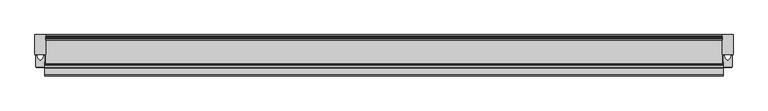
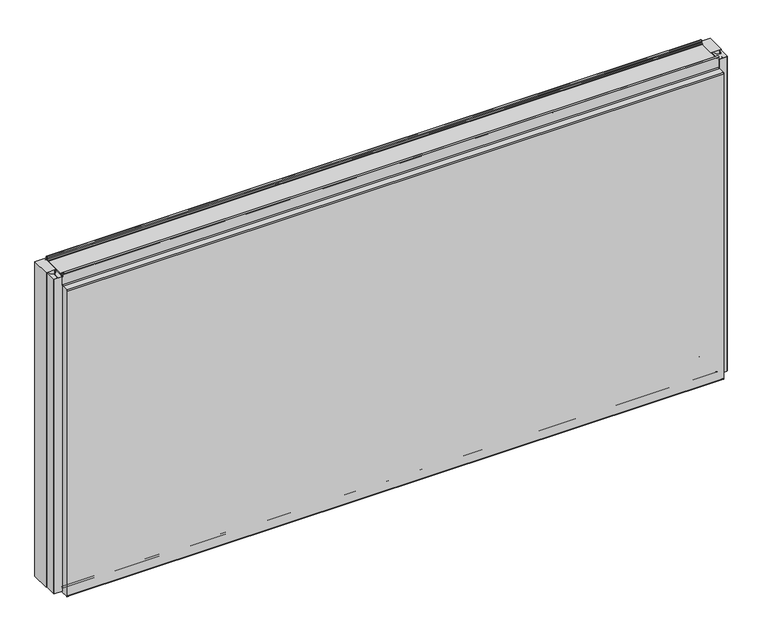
"""IFC4 building model written with IfcOpenShell, lengths in millimetres: plate geometry, Fronttop : Fronttop 120/1000."""

from ifc_helpers import new_model, si_unit, point, frame, frame_2d, origin, origin_with_axes, place, context, project, spatial, polyline, circle_curve, trimmed, segment, composite_curve, outline, extrude, source, transform, mapped, element, save
from ifc_brep_helpers import plane_surface, cylinder_surface, revolved_surface, advanced_brep


def plate_6d30afa2(model_context):
    return source(origin(), model_context, "Body", "SolidModel", [
        advanced_brep(
        [(-986.5, -94.0, 1008.0), (-986.5, -94.0, 1000.0), (-986.5, -95.0, 1000.0), (-986.5, -95.0, 1008.0), (-986.5, -90.0, 1008.0), (-986.5, -90.0, 1004.0), (-986.5, -87.0, 1001.0), (-986.5, -85.0, 1001.0), (-986.5, -85.0, 1000.0), (-986.5, -87.0, 1000.0), (-986.5, -91.0, 1004.0), (-986.5, -91.0, 1008.0), (986.5, -95.0, 1008.0), (986.5, -95.0, 1000.0), (986.5, -94.0, 1000.0), (986.5, -94.0, 1008.0), (986.5, -91.0, 1008.0), (986.5, -91.0, 1004.0), (986.5, -87.0, 1000.0), (986.5, -85.0, 1000.0), (986.5, -85.0, 1001.0), (986.5, -87.0, 1001.0), (986.5, -90.0, 1004.0), (986.5, -90.0, 1008.0), (-986.5, -87.0, 2.0), (-986.5, -85.0, 2.0), (986.5, -85.0, 2.0), (986.5, -87.0, 2.0), (986.5, -89.0, 4.0), (-986.5, -89.0, 4.0), (986.5, -89.0, 8.0), (-986.5, -89.0, 8.0), (986.5, -96.0, 8.0), (-986.5, -96.0, 8.0), (986.5, -96.0, 0.0), (-986.5, -96.0, 0.0), (986.5, -99.0, -3.0), (-986.5, -99.0, -3.0), (986.5, -95.0, -3.0), (987.5, -95.0, -3.0), (987.5, -117.0, -3.0), (986.5, -117.0, -3.0), (-986.5, -117.0, -3.0), (-987.5, -117.0, -3.0), (-987.5, -95.0, -3.0), (-986.5, -95.0, -3.0), (986.5, -120.0, 0.0), (-986.5, -120.0, 0.0), (987.5, -120.0, 0.0), (987.5, -120.0, 969.0), (986.5, -120.0, 969.0), (-986.5, -120.0, 969.0), (-987.5, -120.0, 969.0), (-987.5, -120.0, 0.0), (986.5, -117.0, 972.0), (-986.5, -117.0, 972.0), (987.5, -117.0, 972.0), (987.5, -98.0, 972.0), (986.5, -98.0, 972.0), (-986.5, -98.0, 972.0), (-987.5, -98.0, 972.0), (-987.5, -117.0, 972.0), (986.5, -95.0, 975.0), (-986.5, -95.0, 975.0), (987.5, -95.0, 975.0), (987.5, -95.0, 1000.0), (-987.5, -95.0, 1000.0), (-987.5, -95.0, 975.0), (986.5, -94.0, 975.0), (-986.5, -94.0, 975.0), (986.5, -98.0, 971.0), (-986.5, -98.0, 971.0), (986.5, -117.0, 971.0), (-986.5, -117.0, 971.0), (986.5, -119.0, 969.0), (-986.5, -119.0, 969.0), (986.5, -119.0, 0.0), (-986.5, -119.0, 0.0), (986.5, -117.0, -2.0), (-986.5, -117.0, -2.0), (986.5, -99.0, -2.0), (-986.5, -99.0, -2.0), (986.5, -97.0, 0.0), (-986.5, -97.0, 0.0), (986.5, -97.0, 8.0), (-986.5, -97.0, 8.0), (986.5, -88.0, 8.0), (-986.5, -88.0, 8.0), (986.5, -88.0, 4.0), (-986.5, -88.0, 4.0), (986.5, -87.0, 3.0), (-986.5, -87.0, 3.0), (986.5, -85.0, 3.0), (-986.5, -85.0, 3.0), (987.5, -95.0, 0.0), (987.5, -80.0, 0.0), (987.5, -80.0, 1000.0), (986.5, -80.0, 1000.0), (986.5, -80.0, 0.0), (986.5, -95.0, 0.0), (-987.5, -80.0, 1000.0), (-987.5, -80.0, 0.0), (-987.5, -95.0, 0.0), (-986.5, -80.0, 1000.0), (-986.5, -95.0, 0.0), (-986.5, -80.0, 0.0)],
        [
            (0, 1),
            (1, 2),
            (2, 3),
            (3, 4, circle_curve(frame((-986.5, -92.5, 1008.0), z_axis=(-1.0, 0.0, 0.0), x_axis=(0.0, 1.0, 0.0)), 2.5)),
            (4, 5),
            (5, 6, circle_curve(frame((-986.5, -87.0, 1004.0), z_axis=(1.0, 0.0, 0.0), x_axis=(0.0, 1.0, 0.0)), 3.0)),
            (6, 7),
            (7, 8),
            (8, 9),
            (9, 10, circle_curve(frame((-986.5, -87.0, 1004.0), z_axis=(-1.0, 0.0, 0.0), x_axis=(0.0, 1.0, 0.0)), 4.0)),
            (10, 11),
            (11, 0, circle_curve(frame((-986.5, -92.5, 1008.0), z_axis=(1.0, 0.0, 0.0), x_axis=(0.0, 1.0, 0.0)), 1.5)),
            (12, 13),
            (13, 14),
            (14, 15),
            (15, 16, circle_curve(frame((986.5, -92.5, 1008.0), z_axis=(-1.0, 0.0, 0.0), x_axis=(0.0, 1.0, 0.0)), 1.5)),
            (16, 17),
            (17, 18, circle_curve(frame((986.5, -87.0, 1004.0), z_axis=(1.0, 0.0, 0.0), x_axis=(0.0, 1.0, 0.0)), 4.0)),
            (18, 19),
            (19, 20),
            (20, 21),
            (21, 22, circle_curve(frame((986.5, -87.0, 1004.0), z_axis=(-1.0, 0.0, 0.0), x_axis=(0.0, 1.0, 0.0)), 3.0)),
            (22, 23),
            (23, 12, circle_curve(frame((986.5, -92.5, 1008.0), z_axis=(1.0, 0.0, 0.0), x_axis=(0.0, 1.0, 0.0)), 2.5)),
            (24, 25),
            (25, 26),
            (26, 27),
            (27, 24),
            (27, 28, circle_curve(frame((986.5, -87.0, 4.0), z_axis=(-1.0, 0.0, 0.0), x_axis=(0.0, 1.0, 0.0)), 2.0)),
            (28, 29),
            (29, 24, circle_curve(frame((-986.5, -87.0, 4.0), z_axis=(1.0, 0.0, 0.0), x_axis=(0.0, 1.0, 0.0)), 2.0)),
            (28, 30),
            (30, 31),
            (31, 29),
            (30, 32, circle_curve(frame((986.5, -92.5, 8.0), z_axis=(1.0, 0.0, 0.0), x_axis=(0.0, 1.0, 0.0)), 3.5)),
            (32, 33),
            (33, 31, circle_curve(frame((-986.5, -92.5, 8.0), z_axis=(-1.0, 0.0, 0.0), x_axis=(0.0, 1.0, 0.0)), 3.5)),
            (32, 34),
            (34, 35),
            (35, 33),
            (34, 36, circle_curve(frame((986.5, -99.0, 0.0), z_axis=(-1.0, 0.0, 0.0), x_axis=(0.0, 1.0, 0.0)), 3.0)),
            (36, 37),
            (37, 35, circle_curve(frame((-986.5, -99.0, 0.0), z_axis=(1.0, 0.0, 0.0), x_axis=(0.0, 1.0, 0.0)), 3.0)),
            (36, 38),
            (38, 39),
            (39, 40),
            (40, 41),
            (41, 42),
            (42, 43),
            (43, 44),
            (44, 45),
            (45, 37),
            (41, 46, circle_curve(frame((986.5, -117.0, 0.0), z_axis=(-1.0, 0.0, 0.0), x_axis=(0.0, 1.0, 0.0)), 3.0)),
            (46, 47),
            (47, 42, circle_curve(frame((-986.5, -117.0, 0.0), z_axis=(1.0, 0.0, 0.0), x_axis=(0.0, 1.0, 0.0)), 3.0)),
            (46, 48),
            (48, 49),
            (49, 50),
            (50, 51),
            (51, 52),
            (52, 53),
            (53, 47),
            (50, 54, circle_curve(frame((986.5, -117.0, 969.0), z_axis=(-1.0, 0.0, 0.0), x_axis=(0.0, 1.0, 0.0)), 3.0)),
            (54, 55),
            (55, 51, circle_curve(frame((-986.5, -117.0, 969.0), z_axis=(1.0, 0.0, 0.0), x_axis=(0.0, 1.0, 0.0)), 3.0)),
            (54, 56),
            (56, 57),
            (57, 58),
            (58, 59),
            (59, 60),
            (60, 61),
            (61, 55),
            (58, 62, circle_curve(frame((986.5, -98.0, 975.0), z_axis=(1.0, 0.0, 0.0), x_axis=(0.0, 1.0, 0.0)), 3.0)),
            (62, 63),
            (63, 59, circle_curve(frame((-986.5, -98.0, 975.0), z_axis=(-1.0, 0.0, 0.0), x_axis=(0.0, 1.0, 0.0)), 3.0)),
            (62, 64),
            (64, 65),
            (65, 13),
            (12, 3),
            (2, 66),
            (66, 67),
            (67, 63),
            (23, 4),
            (22, 5),
            (21, 6),
            (20, 7),
            (19, 8),
            (19, 18),
            (18, 9),
            (9, 8),
            (17, 10),
            (16, 11),
            (15, 0),
            (14, 68),
            (68, 69),
            (69, 1),
            (68, 70, circle_curve(frame((986.5, -98.0, 975.0), z_axis=(-1.0, 0.0, 0.0), x_axis=(0.0, 1.0, 0.0)), 4.0)),
            (70, 71),
            (71, 69, circle_curve(frame((-986.5, -98.0, 975.0), z_axis=(1.0, 0.0, 0.0), x_axis=(0.0, 1.0, 0.0)), 4.0)),
            (70, 72),
            (72, 73),
            (73, 71),
            (72, 74, circle_curve(frame((986.5, -117.0, 969.0), z_axis=(1.0, 0.0, 0.0), x_axis=(0.0, 1.0, 0.0)), 2.0)),
            (74, 75),
            (75, 73, circle_curve(frame((-986.5, -117.0, 969.0), z_axis=(-1.0, 0.0, 0.0), x_axis=(0.0, 1.0, 0.0)), 2.0)),
            (74, 76),
            (76, 77),
            (77, 75),
            (76, 78, circle_curve(frame((986.5, -117.0, 0.0), z_axis=(1.0, 0.0, 0.0), x_axis=(0.0, 1.0, 0.0)), 2.0)),
            (78, 79),
            (79, 77, circle_curve(frame((-986.5, -117.0, 0.0), z_axis=(-1.0, 0.0, 0.0), x_axis=(0.0, 1.0, 0.0)), 2.0)),
            (78, 80),
            (80, 81),
            (81, 79),
            (80, 82, circle_curve(frame((986.5, -99.0, 0.0), z_axis=(1.0, 0.0, 0.0), x_axis=(0.0, 1.0, 0.0)), 2.0)),
            (82, 83),
            (83, 81, circle_curve(frame((-986.5, -99.0, 0.0), z_axis=(-1.0, 0.0, 0.0), x_axis=(0.0, 1.0, 0.0)), 2.0)),
            (82, 84),
            (84, 85),
            (85, 83),
            (84, 86, circle_curve(frame((986.5, -92.5, 8.0), z_axis=(-1.0, 0.0, 0.0), x_axis=(0.0, 1.0, 0.0)), 4.5)),
            (86, 87),
            (87, 85, circle_curve(frame((-986.5, -92.5, 8.0), z_axis=(1.0, 0.0, 0.0), x_axis=(0.0, 1.0, 0.0)), 4.5)),
            (86, 88),
            (88, 89),
            (89, 87),
            (88, 90, circle_curve(frame((986.5, -87.0, 4.0), z_axis=(1.0, 0.0, 0.0), x_axis=(0.0, 1.0, 0.0)), 1.0)),
            (90, 91),
            (91, 89, circle_curve(frame((-986.5, -87.0, 4.0), z_axis=(-1.0, 0.0, 0.0), x_axis=(0.0, 1.0, 0.0)), 1.0)),
            (90, 92),
            (92, 93),
            (93, 91),
            (25, 93),
            (92, 26),
            (64, 57, circle_curve(frame((987.5, -98.0, 975.0), z_axis=(-1.0, 0.0, 0.0), x_axis=(0.0, -1.0, 0.0)), 3.0)),
            (56, 49, circle_curve(frame((987.5, -117.0, 969.0), z_axis=(1.0, 0.0, 0.0), x_axis=(0.0, -1.0, 0.0)), 3.0)),
            (48, 40, circle_curve(frame((987.5, -117.0, 0.0), z_axis=(1.0, 0.0, 0.0), x_axis=(0.0, -1.0, 0.0)), 3.0)),
            (39, 94),
            (94, 95),
            (95, 96),
            (96, 65),
            (14, 18),
            (19, 97),
            (97, 98),
            (98, 99),
            (99, 38),
            (96, 97),
            (95, 98),
            (94, 99),
            (66, 100),
            (100, 101),
            (101, 102),
            (102, 44),
            (43, 53, circle_curve(frame((-987.5, -117.0, 0.0), z_axis=(-1.0, 0.0, 0.0), x_axis=(0.0, -1.0, 0.0)), 3.0)),
            (52, 61, circle_curve(frame((-987.5, -117.0, 969.0), z_axis=(-1.0, 0.0, 0.0), x_axis=(0.0, -1.0, 0.0)), 3.0)),
            (60, 67, circle_curve(frame((-987.5, -98.0, 975.0), z_axis=(1.0, 0.0, 0.0), x_axis=(0.0, -1.0, 0.0)), 3.0)),
            (103, 8),
            (9, 1),
            (45, 104),
            (104, 105),
            (105, 103),
            (103, 100),
            (105, 101),
            (104, 102),
        ],
        [
            plane_surface(frame((-986.5, 0.0, 0.0), z_axis=(-1.0, 0.0, 0.0), x_axis=(0.0, 0.0, 1.0))),
            plane_surface(frame((986.5, 0.0, 0.0), z_axis=(1.0, 0.0, 0.0), x_axis=(0.0, 0.0, 1.0))),
            plane_surface(frame((-986.5, -87.0, 2.0), z_axis=(0.0, 0.0, -1.0), x_axis=(1.0, 0.0, 0.0))),
            cylinder_surface(frame((-986.5, -87.0, 4.0), z_axis=(-1.0, 0.0, 0.0), x_axis=(0.0, 1.0, 0.0)), 2.0),
            plane_surface(frame((-986.5, -89.0, 8.0), z_axis=(0.0, -1.0, 0.0), x_axis=(1.0, 0.0, 0.0))),
            revolved_surface(polyline([(986.5, -89.0, 8.0), (-986.5, -89.0, 8.0)]), (-986.5, -92.5, 8.0), (1.0, 0.0, 0.0)),
            plane_surface(frame((-986.5, -96.0, 0.0), z_axis=(0.0, 1.0, 0.0), x_axis=(1.0, 0.0, 0.0))),
            cylinder_surface(frame((-986.5, -99.0, 0.0), z_axis=(-1.0, 0.0, 0.0), x_axis=(0.0, 1.0, 0.0)), 3.0),
            plane_surface(frame((-986.5, -117.0, -3.0), z_axis=(0.0, 0.0, -1.0), x_axis=(1.0, 0.0, 0.0))),
            cylinder_surface(frame((-986.5, -117.0, 0.0), z_axis=(-1.0, 0.0, 0.0), x_axis=(0.0, 1.0, 0.0)), 3.0),
            plane_surface(frame((-986.5, -120.0, 969.0), z_axis=(0.0, -1.0, 0.0), x_axis=(1.0, 0.0, 0.0))),
            cylinder_surface(frame((-986.5, -117.0, 969.0), z_axis=(-1.0, 0.0, 0.0), x_axis=(0.0, 1.0, 0.0)), 3.0),
            plane_surface(frame((-986.5, -98.0, 972.0), z_axis=(0.0, 0.0, 1.0), x_axis=(1.0, 0.0, 0.0))),
            revolved_surface(polyline([(986.5, -95.0, 975.0), (-986.5, -95.0, 975.0)]), (-986.5, -98.0, 975.0), (1.0, 0.0, 0.0)),
            plane_surface(frame((-986.5, -95.0, 1008.0), z_axis=(0.0, -1.0, 0.0), x_axis=(1.0, 0.0, 0.0))),
            cylinder_surface(frame((-986.5, -92.5, 1008.0), z_axis=(-1.0, 0.0, 0.0), x_axis=(0.0, 1.0, 0.0)), 2.5),
            plane_surface(frame((-986.5, -90.0, 1004.0), z_axis=(0.0, 1.0, 0.0), x_axis=(1.0, 0.0, 0.0))),
            revolved_surface(polyline([(986.5, -84.0, 1004.0), (-986.5, -84.0, 1004.0)]), (-986.5, -87.0, 1004.0), (1.0, 0.0, 0.0)),
            plane_surface(frame((-986.5, -85.0, 1001.0), z_axis=(0.0, 0.0, 1.0), x_axis=(1.0, 0.0, 0.0))),
            plane_surface(frame((-986.5, -85.0, 1000.0), z_axis=(0.0, 1.0, 0.0), x_axis=(1.0, 0.0, 0.0))),
            plane_surface(frame((-986.5, -87.0, 1000.0), z_axis=(0.0, 0.0, -1.0), x_axis=(1.0, 0.0, 0.0))),
            cylinder_surface(frame((-986.5, -87.0, 1004.0), z_axis=(-1.0, 0.0, 0.0), x_axis=(0.0, 1.0, 0.0)), 4.0),
            plane_surface(frame((-986.5, -91.0, 1008.0), z_axis=(0.0, -1.0, 0.0), x_axis=(1.0, 0.0, 0.0))),
            revolved_surface(polyline([(986.5, -91.0, 1008.0), (-986.5, -91.0, 1008.0)]), (-986.5, -92.5, 1008.0), (1.0, 0.0, 0.0)),
            plane_surface(frame((-986.5, -94.0, 975.0), z_axis=(0.0, 1.0, 0.0), x_axis=(1.0, 0.0, 0.0))),
            cylinder_surface(frame((-986.5, -98.0, 975.0), z_axis=(-1.0, 0.0, 0.0), x_axis=(0.0, 1.0, 0.0)), 4.0),
            plane_surface(frame((-986.5, -117.0, 971.0), z_axis=(0.0, 0.0, -1.0), x_axis=(1.0, 0.0, 0.0))),
            revolved_surface(polyline([(986.5, -115.0, 969.0), (-986.5, -115.0, 969.0)]), (-986.5, -117.0, 969.0), (1.0, 0.0, 0.0)),
            plane_surface(frame((-986.5, -119.0, 0.0), z_axis=(0.0, 1.0, 0.0), x_axis=(1.0, 0.0, 0.0))),
            revolved_surface(polyline([(986.5, -115.0, 0.0), (-986.5, -115.0, 0.0)]), (-986.5, -117.0, 0.0), (1.0, 0.0, 0.0)),
            plane_surface(frame((-986.5, -99.0, -2.0), z_axis=(0.0, 0.0, 1.0), x_axis=(1.0, 0.0, 0.0))),
            revolved_surface(polyline([(986.5, -97.0, 0.0), (-986.5, -97.0, 0.0)]), (-986.5, -99.0, 0.0), (1.0, 0.0, 0.0)),
            plane_surface(frame((-986.5, -97.0, 8.0), z_axis=(0.0, -1.0, 0.0), x_axis=(1.0, 0.0, 0.0))),
            cylinder_surface(frame((-986.5, -92.5, 8.0), z_axis=(-1.0, 0.0, 0.0), x_axis=(0.0, 1.0, 0.0)), 4.5),
            plane_surface(frame((-986.5, -88.0, 4.0), z_axis=(0.0, 1.0, 0.0), x_axis=(1.0, 0.0, 0.0))),
            revolved_surface(polyline([(986.5, -86.0, 4.0), (-986.5, -86.0, 4.0)]), (-986.5, -87.0, 4.0), (1.0, 0.0, 0.0)),
            plane_surface(frame((-986.5, -85.0, 3.0), z_axis=(0.0, 0.0, 1.0), x_axis=(1.0, 0.0, 0.0))),
            plane_surface(frame((-986.5, -85.0, 2.0), z_axis=(0.0, 1.0, 0.0), x_axis=(1.0, 0.0, 0.0))),
            plane_surface(frame((987.5, -95.0, 1000.0), z_axis=(1.0, 0.0, 0.0), x_axis=(0.0, 1.0, 0.0))),
            plane_surface(frame((986.5, -95.0, 1000.0), z_axis=(-1.0, 0.0, 0.0), x_axis=(0.0, -1.0, 0.0))),
            plane_surface(frame((987.5, -95.0, 1000.0), z_axis=(0.0, 0.0, 1.0), x_axis=(-1.0, 0.0, 0.0))),
            plane_surface(frame((987.5, -80.0, 1000.0), z_axis=(0.0, 1.0, 0.0), x_axis=(-1.0, 0.0, 0.0))),
            plane_surface(frame((987.5, -80.0, 0.0), z_axis=(0.0, 0.0, -1.0), x_axis=(-1.0, 0.0, 0.0))),
            cylinder_surface(frame((986.5, -117.0, 0.0), z_axis=(1.0, 0.0, 0.0), x_axis=(0.0, -1.0, 0.0)), 3.0),
            cylinder_surface(frame((986.5, -117.0, 969.0), z_axis=(1.0, 0.0, 0.0), x_axis=(0.0, -1.0, 0.0)), 3.0),
            revolved_surface(polyline([(986.5, -101.0, 975.0), (987.5, -101.0, 975.0)]), (986.5, -98.0, 975.0), (-1.0, 0.0, 0.0)),
            plane_surface(frame((-987.5, -95.0, 1000.0), z_axis=(-1.0, 0.0, 0.0), x_axis=(0.0, -1.0, 0.0))),
            plane_surface(frame((-986.5, -95.0, 1000.0), z_axis=(1.0, 0.0, 0.0), x_axis=(0.0, 1.0, 0.0))),
            plane_surface(frame((-986.5, -95.0, 1000.0), z_axis=(0.0, 0.0, 1.0), x_axis=(-1.0, 0.0, 0.0))),
            plane_surface(frame((-986.5, -80.0, 1000.0), z_axis=(0.0, 1.0, 0.0), x_axis=(-1.0, 0.0, 0.0))),
            plane_surface(frame((-986.5, -80.0, 0.0), z_axis=(0.0, 0.0, -1.0), x_axis=(-1.0, 0.0, 0.0))),
            cylinder_surface(frame((-987.5, -117.0, 0.0), z_axis=(1.0, 0.0, 0.0), x_axis=(0.0, -1.0, 0.0)), 3.0),
            cylinder_surface(frame((-987.5, -117.0, 969.0), z_axis=(1.0, 0.0, 0.0), x_axis=(0.0, -1.0, 0.0)), 3.0),
            revolved_surface(polyline([(-987.5, -101.0, 975.0), (-986.5, -101.0, 975.0)]), (-987.5, -98.0, 975.0), (-1.0, 0.0, 0.0)),
            plane_surface(frame((987.5, -95.0, 0.0), z_axis=(0.0, 1.0, 0.0), x_axis=(-1.0, 0.0, 0.0))),
            plane_surface(frame((-986.5, -95.0, 0.0), z_axis=(0.0, 1.0, 0.0), x_axis=(-1.0, 0.0, 0.0))),
        ],
        [
            (0, [[1, 2, 3, 4, 5, 6, 7, 8, 9, 10, 11, 12]]),
            (1, [[13, 14, 15, 16, 17, 18, 19, 20, 21, 22, 23, 24]]),
            (2, [[25, 26, 27, 28]]),
            (3, [[29, 30, 31, -28]]),
            (4, [[32, 33, 34, -30]]),
            (5, [[35, 36, 37, -33]]),
            (6, [[38, 39, 40, -36]]),
            (7, [[41, 42, 43, -39]]),
            (8, [[44, 45, 46, 47, 48, 49, 50, 51, 52, -42]]),
            (9, [[53, 54, 55, -48]]),
            (10, [[56, 57, 58, 59, 60, 61, 62, -54]]),
            (11, [[63, 64, 65, -59]]),
            (12, [[66, 67, 68, 69, 70, 71, 72, -64]]),
            (13, [[73, 74, 75, -69]]),
            (14, [[76, 77, 78, -13, 79, -3, 80, 81, 82, -74]]),
            (15, [[-79, -24, 83, -4]]),
            (16, [[-83, -23, 84, -5]]),
            (17, [[-84, -22, 85, -6]]),
            (18, [[-85, -21, 86, -7]]),
            (19, [[-86, -20, 87, -8]]),
            (20, [[88, 89, 90, -87]]),
            (21, [[-89, -18, 91, -10]]),
            (22, [[-91, -17, 92, -11]]),
            (23, [[-92, -16, 93, -12]]),
            (24, [[-15, 94, 95, 96, -1, -93]]),
            (25, [[97, 98, 99, -95]]),
            (26, [[100, 101, 102, -98]]),
            (27, [[103, 104, 105, -101]]),
            (28, [[106, 107, 108, -104]]),
            (29, [[109, 110, 111, -107]]),
            (30, [[112, 113, 114, -110]]),
            (31, [[115, 116, 117, -113]]),
            (32, [[118, 119, 120, -116]]),
            (33, [[121, 122, 123, -119]]),
            (34, [[124, 125, 126, -122]]),
            (35, [[127, 128, 129, -125]]),
            (36, [[130, 131, 132, -128]]),
            (37, [[133, -131, 134, -26]]),
            (38, [[-77, 135, -67, 136, -57, 137, -46, 138, 139, 140, 141]]),
            (39, [[-44, -41, -38, -35, -32, -29, -27, -134, -130, -127, -124, -121, -118, -115, -112, -109, -106, -103, -100, -97, -94, 142, -88, 143, 144, 145, 146]]),
            (40, [[147, -143, -19, -142, -14, -78, -141]]),
            (41, [[148, -144, -147, -140]]),
            (42, [[149, -145, -148, -139]]),
            (43, [[-56, -53, -47, -137]]),
            (44, [[-66, -63, -58, -136]]),
            (45, [[-76, -73, -68, -135]]),
            (46, [[150, 151, 152, 153, -50, 154, -61, 155, -71, 156, -81]]),
            (47, [[157, -90, 158, -96, -99, -102, -105, -108, -111, -114, -117, -120, -123, -126, -129, -132, -133, -25, -31, -34, -37, -40, -43, -52, 159, 160, 161]]),
            (48, [[-80, -2, -158, -9, -157, 162, -150]]),
            (49, [[-162, -161, 163, -151]]),
            (50, [[-163, -160, 164, -152]]),
            (51, [[-49, -55, -62, -154]]),
            (52, [[-60, -65, -72, -155]]),
            (53, [[-70, -75, -82, -156]]),
            (54, [[-45, -146, -149, -138]]),
            (55, [[-164, -159, -51, -153]]),
        ],
    ),
        extrude(outline(composite_curve([segment(polyline([(-1012.5001545, -93.5), (-1012.5001545, -60.0), (-1009.75, -60.0), (-1009.75, -62.5)]), True, "CONTINUOUS"), segment(trimmed(circle_curve(frame_2d((-991.9661979, -59.3183984)), 18.0661619), [point((-1009.75, -62.5))], [point((-1000.0, -75.5))], True, "CARTESIAN"), True, "CONTINUOUS"), segment(trimmed(circle_curve(frame_2d((-1008.0338021, -59.3183984)), 18.0661619), [point((-1000.0, -75.5))], [point((-990.25, -62.5))], True, "CARTESIAN"), True, "CONTINUOUS"), segment(polyline([(-990.25, -62.5), (-990.25, -60.0), (-987.4998455, -60.0), (-987.4998455, -93.5), (-999.25, -93.5), (-999.25, -77.5), (-1000.75, -77.5), (-1000.75, -93.5), (-1012.5001545, -93.5)]), True, "CONTINUOUS")], self_intersect=False)), origin_with_axes(), (0.0, 0.0, 1.0), 1000.0),
        extrude(outline(polyline([(-984.5, 0.0), (-984.5, -58.0), (-1015.5, -58.0), (-1015.5, 0.0), (-984.5, 0.0)])), origin_with_axes(), (0.0, 0.0, 1.0), 1000.0),
        extrude(outline(polyline([(-1011.5051154, -95.0), (-1011.5051154, -93.5), (-1000.65, -93.5), (-1000.65, -79.0759655), (-999.3497504, -79.0759655), (-999.3497504, -93.5), (-988.4948846, -93.5), (-988.4948846, -95.0), (-1011.5051154, -95.0)])), origin_with_axes(), (0.0, 0.0, 1.0), 1000.0),
        extrude(outline(composite_curve([segment(polyline([(987.4998455, -93.5), (987.4998455, -60.0), (990.25, -60.0), (990.25, -62.5)]), True, "CONTINUOUS"), segment(trimmed(circle_curve(frame_2d((1008.0338021, -59.3183984)), 18.0661619), [point((990.25, -62.5))], [point((1000.0, -75.5))], True, "CARTESIAN"), True, "CONTINUOUS"), segment(trimmed(circle_curve(frame_2d((991.9661979, -59.3183984)), 18.0661619), [point((1000.0, -75.5))], [point((1009.75, -62.5))], True, "CARTESIAN"), True, "CONTINUOUS"), segment(polyline([(1009.75, -62.5), (1009.75, -60.0), (1012.5001545, -60.0), (1012.5001545, -93.5), (1000.75, -93.5), (1000.75, -77.5), (999.25, -77.5), (999.25, -93.5), (987.4998455, -93.5)]), True, "CONTINUOUS")], self_intersect=False)), origin_with_axes(), (0.0, 0.0, 1.0), 1000.0),
        extrude(outline(polyline([(1015.5, 0.0), (1015.5, -58.0), (984.5, -58.0), (984.5, 0.0), (1015.5, 0.0)])), origin_with_axes(), (0.0, 0.0, 1.0), 1000.0),
        extrude(outline(polyline([(988.4948846, -95.0), (988.4948846, -93.5), (999.35, -93.5), (999.35, -79.0759655), (1000.6502496, -79.0759655), (1000.6502496, -93.5), (1011.5051154, -93.5), (1011.5051154, -95.0), (988.4948846, -95.0)])), origin_with_axes(), (0.0, 0.0, 1.0), 1000.0),
        advanced_brep(
        [(-984.5, -13.0, 1001.0), (-984.5, -10.0, 1004.0), (-984.5, -10.0, 1008.0), (-984.5, -5.0, 1008.0), (-984.5, -5.0, 999.5), (-984.5, -2.2239212, 997.0152907), (-984.5, 0.0, 995.0), (-984.5, 0.0, -0.5), (-984.5, -4.0, -0.5), (-984.5, -4.0, 8.0), (-984.5, -11.0, 8.0), (-984.5, -11.0, 4.0), (-984.5, -13.0, 2.0), (-984.5, -15.0, 2.0), (-984.5, -15.0, 3.0), (-984.5, -13.0, 3.0), (-984.5, -12.0, 4.0), (-984.5, -12.0, 8.0), (-984.5, -3.0, 8.0), (-984.5, -3.0, -0.5), (-984.5, -1.0, -0.5), (-984.5, -1.0, 995.0), (-984.5, -2.1104315, 995.9938837), (-984.5, -6.0, 999.5), (-984.5, -6.0, 1008.0), (-984.5, -9.0, 1008.0), (-984.5, -9.0, 1004.0), (-984.5, -13.0, 1000.0), (-984.5, -15.0, 1000.0), (-984.5, -15.0, 1001.0), (984.5, -13.0, 1001.0), (984.5, -15.0, 1001.0), (984.5, -15.0, 1000.0), (984.5, -13.0, 1000.0), (984.5, -9.0, 1004.0), (984.5, -9.0, 1008.0), (984.5, -6.0, 1008.0), (984.5, -6.0, 999.5), (984.5, -2.1134897, 996.0214069), (984.5, -1.0, 995.0), (984.5, -1.0, -0.5), (984.5, -3.0, -0.5), (984.5, -3.0, 8.0), (984.5, -12.0, 8.0), (984.5, -12.0, 4.0), (984.5, -13.0, 3.0), (984.5, -15.0, 3.0), (984.5, -15.0, 2.0), (984.5, -13.0, 2.0), (984.5, -11.0, 4.0), (984.5, -11.0, 8.0), (984.5, -4.0, 8.0), (984.5, -4.0, -0.5), (984.5, 0.0, -0.5), (984.5, 0.0, 995.0), (984.5, -2.220863, 996.9877675), (984.5, -5.0, 999.5), (984.5, -5.0, 1008.0), (984.5, -10.0, 1008.0), (984.5, -10.0, 1004.0)],
        [
            (0, 1, circle_curve(frame((-984.5, -13.0, 1004.0), z_axis=(1.0, 0.0, 0.0), x_axis=(0.0, 1.0, 0.0)), 3.0)),
            (1, 2),
            (2, 3, circle_curve(frame((-984.5, -7.5, 1008.0), z_axis=(-1.0, 0.0, 0.0), x_axis=(0.0, 1.0, 0.0)), 2.5)),
            (3, 4),
            (4, 5, circle_curve(frame((-984.5, -2.5, 999.5), z_axis=(1.0, 0.0, 0.0), x_axis=(0.0, 1.0, 0.0)), 2.5)),
            (5, 6, circle_curve(frame((-984.5, -2.0, 995.0), z_axis=(-1.0, 0.0, 0.0), x_axis=(0.0, 1.0, 0.0)), 2.0)),
            (6, 7),
            (7, 8, circle_curve(frame((-984.5, -2.0, -0.5), z_axis=(-1.0, 0.0, 0.0), x_axis=(0.0, 1.0, 0.0)), 2.0)),
            (8, 9),
            (9, 10, circle_curve(frame((-984.5, -7.5, 8.0), z_axis=(1.0, 0.0, 0.0), x_axis=(0.0, 1.0, 0.0)), 3.5)),
            (10, 11),
            (11, 12, circle_curve(frame((-984.5, -13.0, 4.0), z_axis=(-1.0, 0.0, 0.0), x_axis=(0.0, 1.0, 0.0)), 2.0)),
            (12, 13),
            (13, 14),
            (14, 15),
            (15, 16, circle_curve(frame((-984.5, -13.0, 4.0), z_axis=(1.0, 0.0, 0.0), x_axis=(0.0, 1.0, 0.0)), 1.0)),
            (16, 17),
            (17, 18, circle_curve(frame((-984.5, -7.5, 8.0), z_axis=(-1.0, 0.0, 0.0), x_axis=(0.0, 1.0, 0.0)), 4.5)),
            (18, 19),
            (19, 20, circle_curve(frame((-984.5, -2.0, -0.5), z_axis=(1.0, 0.0, 0.0), x_axis=(0.0, 1.0, 0.0)), 1.0)),
            (20, 21),
            (21, 22, circle_curve(frame((-984.5, -2.0, 995.0), z_axis=(1.0, 0.0, 0.0), x_axis=(0.0, 1.0, 0.0)), 1.0)),
            (22, 23, circle_curve(frame((-984.5, -2.5, 999.5), z_axis=(-1.0, 0.0, 0.0), x_axis=(0.0, 1.0, 0.0)), 3.5)),
            (23, 24),
            (24, 25, circle_curve(frame((-984.5, -7.5, 1008.0), z_axis=(1.0, 0.0, 0.0), x_axis=(0.0, 1.0, 0.0)), 1.5)),
            (25, 26),
            (26, 27, circle_curve(frame((-984.5, -13.0, 1004.0), z_axis=(-1.0, 0.0, 0.0), x_axis=(0.0, 1.0, 0.0)), 4.0)),
            (27, 28),
            (28, 29),
            (29, 0),
            (30, 31),
            (31, 32),
            (32, 33),
            (33, 34, circle_curve(frame((984.5, -13.0, 1004.0), z_axis=(1.0, 0.0, 0.0), x_axis=(0.0, 1.0, 0.0)), 4.0)),
            (34, 35),
            (35, 36, circle_curve(frame((984.5, -7.5, 1008.0), z_axis=(-1.0, 0.0, 0.0), x_axis=(0.0, 1.0, 0.0)), 1.5)),
            (36, 37),
            (37, 38, circle_curve(frame((984.5, -2.5, 999.5), z_axis=(1.0, 0.0, 0.0), x_axis=(0.0, 1.0, 0.0)), 3.5)),
            (38, 39, circle_curve(frame((984.5, -2.0, 995.0), z_axis=(-1.0, 0.0, 0.0), x_axis=(0.0, 1.0, 0.0)), 1.0)),
            (39, 40),
            (40, 41, circle_curve(frame((984.5, -2.0, -0.5), z_axis=(-1.0, 0.0, 0.0), x_axis=(0.0, 1.0, 0.0)), 1.0)),
            (41, 42),
            (42, 43, circle_curve(frame((984.5, -7.5, 8.0), z_axis=(1.0, 0.0, 0.0), x_axis=(0.0, 1.0, 0.0)), 4.5)),
            (43, 44),
            (44, 45, circle_curve(frame((984.5, -13.0, 4.0), z_axis=(-1.0, 0.0, 0.0), x_axis=(0.0, 1.0, 0.0)), 1.0)),
            (45, 46),
            (46, 47),
            (47, 48),
            (48, 49, circle_curve(frame((984.5, -13.0, 4.0), z_axis=(1.0, 0.0, 0.0), x_axis=(0.0, 1.0, 0.0)), 2.0)),
            (49, 50),
            (50, 51, circle_curve(frame((984.5, -7.5, 8.0), z_axis=(-1.0, 0.0, 0.0), x_axis=(0.0, 1.0, 0.0)), 3.5)),
            (51, 52),
            (52, 53, circle_curve(frame((984.5, -2.0, -0.5), z_axis=(1.0, 0.0, 0.0), x_axis=(0.0, 1.0, 0.0)), 2.0)),
            (53, 54),
            (54, 55, circle_curve(frame((984.5, -2.0, 995.0), z_axis=(1.0, 0.0, 0.0), x_axis=(0.0, 1.0, 0.0)), 2.0)),
            (55, 56, circle_curve(frame((984.5, -2.5, 999.5), z_axis=(-1.0, 0.0, 0.0), x_axis=(0.0, 1.0, 0.0)), 2.5)),
            (56, 57),
            (57, 58, circle_curve(frame((984.5, -7.5, 1008.0), z_axis=(1.0, 0.0, 0.0), x_axis=(0.0, 1.0, 0.0)), 2.5)),
            (58, 59),
            (59, 30, circle_curve(frame((984.5, -13.0, 1004.0), z_axis=(-1.0, 0.0, 0.0), x_axis=(0.0, 1.0, 0.0)), 3.0)),
            (29, 31),
            (30, 0),
            (28, 32),
            (27, 33),
            (26, 34),
            (25, 35),
            (24, 36),
            (23, 37),
            (22, 38),
            (21, 39),
            (20, 40),
            (19, 41),
            (18, 42),
            (17, 43),
            (16, 44),
            (15, 45),
            (14, 46),
            (13, 47),
            (12, 48),
            (11, 49),
            (10, 50),
            (9, 51),
            (8, 52),
            (7, 53),
            (6, 54),
            (5, 55),
            (4, 56),
            (3, 57),
            (2, 58),
            (1, 59),
        ],
        [
            plane_surface(frame((-984.5, 0.0, 0.0), z_axis=(-1.0, 0.0, 0.0), x_axis=(0.0, 0.0, 1.0))),
            plane_surface(frame((984.5, 0.0, 0.0), z_axis=(1.0, 0.0, 0.0), x_axis=(0.0, 0.0, 1.0))),
            plane_surface(frame((-984.5, -13.0, 1001.0), z_axis=(0.0, 0.0, 1.0), x_axis=(1.0, 0.0, 0.0))),
            plane_surface(frame((-984.5, -15.0, 1001.0), z_axis=(0.0, -1.0, 0.0), x_axis=(1.0, 0.0, 0.0))),
            plane_surface(frame((-984.5, -15.0, 1000.0), z_axis=(0.0, 0.0, -1.0), x_axis=(1.0, 0.0, 0.0))),
            cylinder_surface(frame((-984.5, -13.0, 1004.0), z_axis=(-1.0, 0.0, 0.0), x_axis=(0.0, 1.0, 0.0)), 4.0),
            plane_surface(frame((-984.5, -9.0, 1004.0), z_axis=(0.0, 1.0, 0.0), x_axis=(1.0, 0.0, 0.0))),
            revolved_surface(polyline([(984.5, -6.0, 1008.0), (-984.5, -6.0, 1008.0)]), (-984.5, -7.5, 1008.0), (1.0, 0.0, 0.0)),
            plane_surface(frame((-984.5, -6.0, 1008.0), z_axis=(0.0, -1.0, 0.0), x_axis=(1.0, 0.0, 0.0))),
            cylinder_surface(frame((-984.5, -2.5, 999.5), z_axis=(-1.0, 0.0, 0.0), x_axis=(0.0, 1.0, 0.0)), 3.5),
            revolved_surface(polyline([(984.5, -1.0, 995.0), (-984.5, -1.0, 995.0)]), (-984.5, -2.0, 995.0), (1.0, 0.0, 0.0)),
            plane_surface(frame((-984.5, -1.0, 995.0), z_axis=(0.0, -1.0, 0.0), x_axis=(1.0, 0.0, 0.0))),
            revolved_surface(polyline([(984.5, -1.0, -0.5), (-984.5, -1.0, -0.5)]), (-984.5, -2.0, -0.5), (1.0, 0.0, 0.0)),
            plane_surface(frame((-984.5, -3.0, -0.5), z_axis=(0.0, 1.0, 0.0), x_axis=(1.0, 0.0, 0.0))),
            cylinder_surface(frame((-984.5, -7.5, 8.0), z_axis=(-1.0, 0.0, 0.0), x_axis=(0.0, 1.0, 0.0)), 4.5),
            plane_surface(frame((-984.5, -12.0, 8.0), z_axis=(0.0, -1.0, 0.0), x_axis=(1.0, 0.0, 0.0))),
            revolved_surface(polyline([(984.5, -12.0, 4.0), (-984.5, -12.0, 4.0)]), (-984.5, -13.0, 4.0), (1.0, 0.0, 0.0)),
            plane_surface(frame((-984.5, -13.0, 3.0), z_axis=(0.0, 0.0, 1.0), x_axis=(1.0, 0.0, 0.0))),
            plane_surface(frame((-984.5, -15.0, 3.0), z_axis=(0.0, -1.0, 0.0), x_axis=(1.0, 0.0, 0.0))),
            plane_surface(frame((-984.5, -15.0, 2.0), z_axis=(0.0, 0.0, -1.0), x_axis=(1.0, 0.0, 0.0))),
            cylinder_surface(frame((-984.5, -13.0, 4.0), z_axis=(-1.0, 0.0, 0.0), x_axis=(0.0, 1.0, 0.0)), 2.0),
            plane_surface(frame((-984.5, -11.0, 4.0), z_axis=(0.0, 1.0, 0.0), x_axis=(1.0, 0.0, 0.0))),
            revolved_surface(polyline([(984.5, -4.0, 8.0), (-984.5, -4.0, 8.0)]), (-984.5, -7.5, 8.0), (1.0, 0.0, 0.0)),
            plane_surface(frame((-984.5, -4.0, 8.0), z_axis=(0.0, -1.0, 0.0), x_axis=(1.0, 0.0, 0.0))),
            cylinder_surface(frame((-984.5, -2.0, -0.5), z_axis=(-1.0, 0.0, 0.0), x_axis=(0.0, 1.0, 0.0)), 2.0),
            plane_surface(frame((-984.5, 0.0, -0.5), z_axis=(0.0, 1.0, 0.0), x_axis=(1.0, 0.0, 0.0))),
            cylinder_surface(frame((-984.5, -2.0, 995.0), z_axis=(-1.0, 0.0, 0.0), x_axis=(0.0, 1.0, 0.0)), 2.0),
            revolved_surface(polyline([(984.5, 0.0, 999.5), (-984.5, 0.0, 999.5)]), (-984.5, -2.5, 999.5), (1.0, 0.0, 0.0)),
            plane_surface(frame((-984.5, -5.0, 999.5), z_axis=(0.0, 1.0, 0.0), x_axis=(1.0, 0.0, 0.0))),
            cylinder_surface(frame((-984.5, -7.5, 1008.0), z_axis=(-1.0, 0.0, 0.0), x_axis=(0.0, 1.0, 0.0)), 2.5),
            plane_surface(frame((-984.5, -10.0, 1008.0), z_axis=(0.0, -1.0, 0.0), x_axis=(1.0, 0.0, 0.0))),
            revolved_surface(polyline([(984.5, -10.0, 1004.0), (-984.5, -10.0, 1004.0)]), (-984.5, -13.0, 1004.0), (1.0, 0.0, 0.0)),
        ],
        [
            (0, [[1, 2, 3, 4, 5, 6, 7, 8, 9, 10, 11, 12, 13, 14, 15, 16, 17, 18, 19, 20, 21, 22, 23, 24, 25, 26, 27, 28, 29, 30]]),
            (1, [[31, 32, 33, 34, 35, 36, 37, 38, 39, 40, 41, 42, 43, 44, 45, 46, 47, 48, 49, 50, 51, 52, 53, 54, 55, 56, 57, 58, 59, 60]]),
            (2, [[61, -31, 62, -30]]),
            (3, [[63, -32, -61, -29]]),
            (4, [[64, -33, -63, -28]]),
            (5, [[65, -34, -64, -27]]),
            (6, [[66, -35, -65, -26]]),
            (7, [[67, -36, -66, -25]]),
            (8, [[68, -37, -67, -24]]),
            (9, [[69, -38, -68, -23]]),
            (10, [[70, -39, -69, -22]]),
            (11, [[71, -40, -70, -21]]),
            (12, [[72, -41, -71, -20]]),
            (13, [[73, -42, -72, -19]]),
            (14, [[74, -43, -73, -18]]),
            (15, [[75, -44, -74, -17]]),
            (16, [[76, -45, -75, -16]]),
            (17, [[77, -46, -76, -15]]),
            (18, [[78, -47, -77, -14]]),
            (19, [[79, -48, -78, -13]]),
            (20, [[80, -49, -79, -12]]),
            (21, [[81, -50, -80, -11]]),
            (22, [[82, -51, -81, -10]]),
            (23, [[83, -52, -82, -9]]),
            (24, [[84, -53, -83, -8]]),
            (25, [[85, -54, -84, -7]]),
            (26, [[86, -55, -85, -6]]),
            (27, [[87, -56, -86, -5]]),
            (28, [[88, -57, -87, -4]]),
            (29, [[89, -58, -88, -3]]),
            (30, [[90, -59, -89, -2]]),
            (31, [[-62, -60, -90, -1]]),
        ],
    ),
        extrude(outline(composite_curve([segment(polyline([(-15.0, 3.0), (-15.0, 0.0), (-85.0, 0.0), (-85.0, 3.0), (-87.0, 3.0)]), True, "CONTINUOUS"), segment(trimmed(circle_curve(frame_2d((-87.0, 4.0)), 1.0), [point((-87.0, 3.0))], [point((-88.0, 4.0))], False, "CARTESIAN"), True, "CONTINUOUS"), segment(polyline([(-88.0, 4.0), (-88.0, 8.0)]), True, "CONTINUOUS"), segment(trimmed(circle_curve(frame_2d((-92.5, 8.0)), 4.5), [point((-88.0, 8.0))], [point((-97.0, 8.0))], True, "CARTESIAN"), True, "CONTINUOUS"), segment(polyline([(-97.0, 8.0), (-97.0, 0.0)]), True, "CONTINUOUS"), segment(trimmed(circle_curve(frame_2d((-99.0, 0.0)), 2.0), [point((-97.0, 0.0))], [point((-99.0, -2.0))], False, "CARTESIAN"), True, "CONTINUOUS"), segment(polyline([(-99.0, -2.0), (-117.0, -2.0)]), True, "CONTINUOUS"), segment(trimmed(circle_curve(frame_2d((-117.0, 0.0)), 2.0), [point((-117.0, -2.0))], [point((-119.0, 0.0))], False, "CARTESIAN"), True, "CONTINUOUS"), segment(polyline([(-119.0, 0.0), (-119.0, 969.0)]), True, "CONTINUOUS"), segment(trimmed(circle_curve(frame_2d((-117.0, 969.0)), 2.0), [point((-119.0, 969.0))], [point((-117.0, 971.0))], False, "CARTESIAN"), True, "CONTINUOUS"), segment(polyline([(-117.0, 971.0), (-98.0, 971.0)]), True, "CONTINUOUS"), segment(trimmed(circle_curve(frame_2d((-98.0, 975.0)), 4.0), [point((-98.0, 971.0))], [point((-94.0, 975.0))], True, "CARTESIAN"), True, "CONTINUOUS"), segment(polyline([(-94.0, 975.0), (-94.0, 1008.0)]), True, "CONTINUOUS"), segment(trimmed(circle_curve(frame_2d((-92.5, 1008.0)), 1.5), [point((-94.0, 1008.0))], [point((-91.0, 1008.0))], False, "CARTESIAN"), True, "CONTINUOUS"), segment(polyline([(-91.0, 1008.0), (-91.0, 1004.0)]), True, "CONTINUOUS"), segment(trimmed(circle_curve(frame_2d((-87.0, 1004.0)), 4.0), [point((-91.0, 1004.0))], [point((-87.0, 1000.0))], True, "CARTESIAN"), True, "CONTINUOUS"), segment(polyline([(-87.0, 1000.0), (-13.0, 1000.0)]), True, "CONTINUOUS"), segment(trimmed(circle_curve(frame_2d((-13.0, 1004.0)), 4.0), [point((-13.0, 1000.0))], [point((-9.0, 1004.0))], True, "CARTESIAN"), True, "CONTINUOUS"), segment(polyline([(-9.0, 1004.0), (-9.0, 1008.0)]), True, "CONTINUOUS"), segment(trimmed(circle_curve(frame_2d((-7.5, 1008.0)), 1.5), [point((-9.0, 1008.0))], [point((-6.0, 1008.0))], False, "CARTESIAN"), True, "CONTINUOUS"), segment(polyline([(-6.0, 1008.0), (-6.0, 999.5)]), True, "CONTINUOUS"), segment(trimmed(circle_curve(frame_2d((-2.5, 999.5)), 3.5), [point((-6.0, 999.5))], [point((-2.1111111, 996.021672))], True, "CARTESIAN"), True, "CONTINUOUS"), segment(trimmed(circle_curve(frame_2d((-2.0, 995.0278643)), 1.0), [point((-2.1111111, 996.021672))], [point((-1.0, 995.0278643))], False, "CARTESIAN"), True, "CONTINUOUS"), segment(polyline([(-1.0, 995.0278643), (-1.0, -0.5)]), True, "CONTINUOUS"), segment(trimmed(circle_curve(frame_2d((-2.0, -0.5)), 1.0), [point((-1.0, -0.5))], [point((-3.0, -0.5))], False, "CARTESIAN"), True, "CONTINUOUS"), segment(polyline([(-3.0, -0.5), (-3.0, 8.0)]), True, "CONTINUOUS"), segment(trimmed(circle_curve(frame_2d((-7.5, 8.0)), 4.5), [point((-3.0, 8.0))], [point((-12.0, 8.0))], True, "CARTESIAN"), True, "CONTINUOUS"), segment(polyline([(-12.0, 8.0), (-12.0, 4.0)]), True, "CONTINUOUS"), segment(trimmed(circle_curve(frame_2d((-13.0, 4.0)), 1.0), [point((-12.0, 4.0))], [point((-13.0, 3.0))], False, "CARTESIAN"), True, "CONTINUOUS"), segment(polyline([(-13.0, 3.0), (-15.0, 3.0)]), True, "CONTINUOUS")], self_intersect=False)), frame((-984.5, 0.0, 0.0), z_axis=(1.0, 0.0, 0.0), x_axis=(0.0, 1.0, 0.0)), (0.0, 0.0, 1.0), 1969.0),
    ])


if __name__ == "__main__":
    model = new_model("IFC4")
    model_context = context("Model", 3, world=origin())
    ifc_project = project(units=[si_unit("LENGTHUNIT", "METRE", prefix="MILLI")], contexts=[model_context])
    site = spatial("IfcSite", under=ifc_project)
    building = spatial("IfcBuilding", under=site)
    placement = place(None, origin())
    plate_shape = plate_6d30afa2(model_context)
    element("IfcPlate", 1, ObjectType="Fronttop : Fronttop 120/1000", at=placement, inside=building, context=model_context, shape_type="MappedRepresentation", body=[
        mapped(plate_shape, transform((0.0, 0.0, 0.0), x_axis=(1.0, 0.0, 0.0), y_axis=(0.0, 1.0, 0.0), z_axis=(0.0, 0.0, 1.0))),
    ])
    save(model, "model.ifc")
